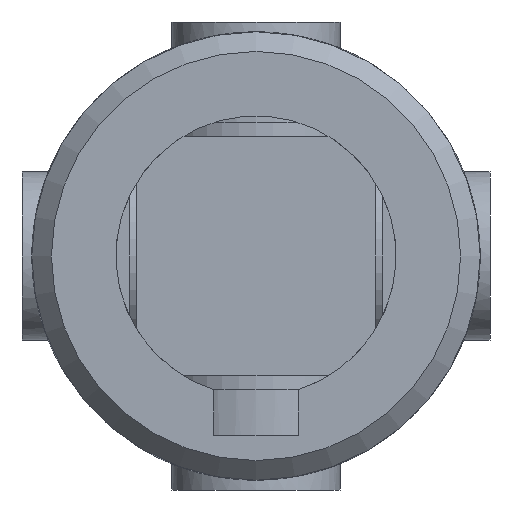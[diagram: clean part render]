
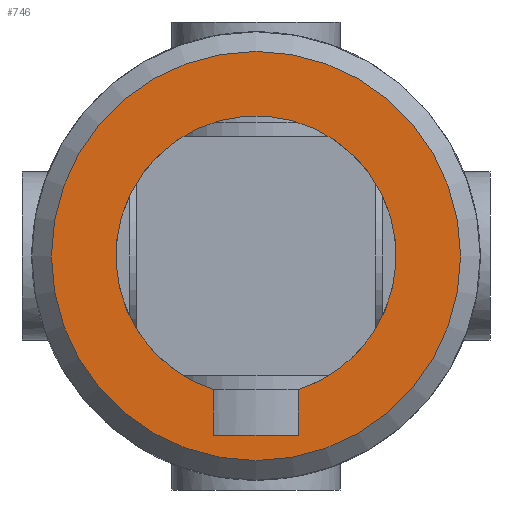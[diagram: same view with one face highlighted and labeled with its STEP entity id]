
A CAD part, front view. The second image highlights one B-rep face of the part: STEP entity #746.
In plain terms, the highlighted planar face has unit normal (0, -1, 0).
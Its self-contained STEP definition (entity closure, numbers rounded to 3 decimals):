
#79=LINE('',#1140,#116);
#81=LINE('',#1146,#118);
#85=LINE('',#1158,#122);
#116=VECTOR('',#921,3.);
#118=VECTOR('',#927,1.63);
#122=VECTOR('',#939,1.63);
#156=PLANE('',#817);
#180=FACE_BOUND('',#272,.T.);
#212=FACE_OUTER_BOUND('',#271,.T.);
#271=EDGE_LOOP('',(#614));
#272=EDGE_LOOP('',(#615,#616,#617,#618));
#312=CIRCLE('',#803,5.);
#319=CIRCLE('',#815,7.3);
#353=VERTEX_POINT('',#1137);
#354=VERTEX_POINT('',#1139);
#356=VERTEX_POINT('',#1145);
#360=VERTEX_POINT('',#1156);
#374=VERTEX_POINT('',#1257);
#431=EDGE_CURVE('',#354,#353,#79,.T.);
#434=EDGE_CURVE('',#356,#354,#81,.T.);
#440=EDGE_CURVE('',#353,#360,#85,.T.);
#449=EDGE_CURVE('',#360,#356,#312,.T.);
#461=EDGE_CURVE('',#374,#374,#319,.T.);
#614=ORIENTED_EDGE('',*,*,#461,.F.);
#615=ORIENTED_EDGE('',*,*,#440,.T.);
#616=ORIENTED_EDGE('',*,*,#449,.T.);
#617=ORIENTED_EDGE('',*,*,#434,.T.);
#618=ORIENTED_EDGE('',*,*,#431,.T.);
#746=ADVANCED_FACE('',(#212,#180),#156,.F.);
#803=AXIS2_PLACEMENT_3D('',#1203,#948,#949);
#815=AXIS2_PLACEMENT_3D('',#1258,#973,#974);
#817=AXIS2_PLACEMENT_3D('',#1426,#981,#982);
#921=DIRECTION('',(-1.,0.,0.));
#927=DIRECTION('',(0.,0.,-1.));
#939=DIRECTION('',(0.,0.,1.));
#948=DIRECTION('center_axis',(0.,1.,0.));
#949=DIRECTION('ref_axis',(-0.3,0.,0.954));
#973=DIRECTION('center_axis',(0.,1.,0.));
#974=DIRECTION('ref_axis',(1.,0.,0.));
#981=DIRECTION('center_axis',(0.,1.,0.));
#982=DIRECTION('ref_axis',(0.,0.,1.));
#1137=CARTESIAN_POINT('',(-1.5,-30.,-6.4));
#1139=CARTESIAN_POINT('',(1.5,-30.,-6.4));
#1140=CARTESIAN_POINT('',(0.75,-30.,-6.4));
#1145=CARTESIAN_POINT('',(1.5,-30.,-4.77));
#1146=CARTESIAN_POINT('',(1.5,-30.,-2.385));
#1156=CARTESIAN_POINT('',(-1.5,-30.,-4.77));
#1158=CARTESIAN_POINT('',(-1.5,-30.,-3.2));
#1203=CARTESIAN_POINT('Origin',(0.,-30.,0.));
#1257=CARTESIAN_POINT('',(-7.3,-30.,0.));
#1258=CARTESIAN_POINT('Origin',(0.,-30.,0.));
#1426=CARTESIAN_POINT('Origin',(0.,-30.,0.));
